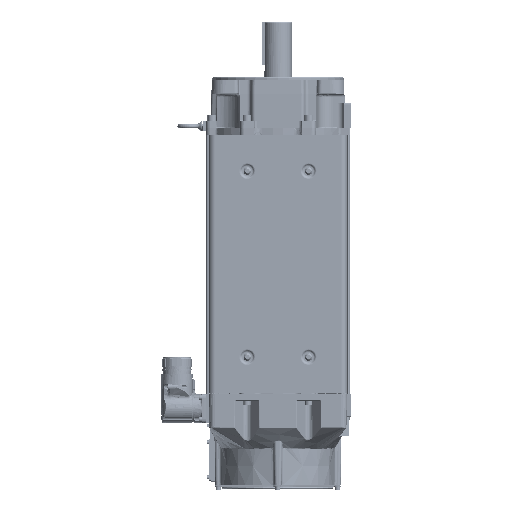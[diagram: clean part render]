
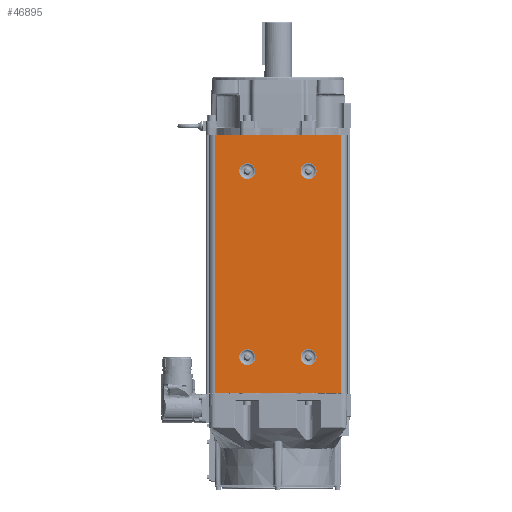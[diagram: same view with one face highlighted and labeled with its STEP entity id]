
A CAD part, left-side view. The second image highlights one B-rep face of the part: STEP entity #46895.
In plain terms, the highlighted planar face has unit normal (-1, 0, 0).
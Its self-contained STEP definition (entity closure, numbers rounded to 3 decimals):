
#45659=DIRECTION('',(0.,0.,-1.));
#45660=VECTOR('',#45659,354.);
#45661=CARTESIAN_POINT('',(0.,-86.25,177.));
#45662=LINE('',#45661,#45660);
#45753=DIRECTION('',(0.,1.,0.));
#45754=VECTOR('',#45753,172.5);
#45755=CARTESIAN_POINT('',(0.,-86.25,177.));
#45756=LINE('',#45755,#45754);
#45765=DIRECTION('',(0.,0.,-1.));
#45766=VECTOR('',#45765,354.);
#45767=CARTESIAN_POINT('',(0.,86.25,177.));
#45768=LINE('',#45767,#45766);
#45769=CARTESIAN_POINT('',(0.,-42.,127.5));
#45770=DIRECTION('',(-1.,0.,0.));
#45771=DIRECTION('',(0.,0.,1.));
#45772=AXIS2_PLACEMENT_3D('',#45769,#45770,#45771);
#45774=CARTESIAN_POINT('',(0.,-42.,127.5));
#45775=DIRECTION('',(-1.,0.,0.));
#45776=DIRECTION('',(0.,0.,-1.));
#45777=AXIS2_PLACEMENT_3D('',#45774,#45775,#45776);
#45779=CARTESIAN_POINT('',(0.,-42.,-127.5));
#45780=DIRECTION('',(-1.,0.,0.));
#45781=DIRECTION('',(0.,0.,1.));
#45782=AXIS2_PLACEMENT_3D('',#45779,#45780,#45781);
#45784=CARTESIAN_POINT('',(0.,-42.,-127.5));
#45785=DIRECTION('',(-1.,0.,0.));
#45786=DIRECTION('',(0.,0.,-1.));
#45787=AXIS2_PLACEMENT_3D('',#45784,#45785,#45786);
#45789=CARTESIAN_POINT('',(0.,42.,127.5));
#45790=DIRECTION('',(-1.,0.,0.));
#45791=DIRECTION('',(0.,0.,1.));
#45792=AXIS2_PLACEMENT_3D('',#45789,#45790,#45791);
#45794=CARTESIAN_POINT('',(0.,42.,127.5));
#45795=DIRECTION('',(-1.,0.,0.));
#45796=DIRECTION('',(0.,0.,-1.));
#45797=AXIS2_PLACEMENT_3D('',#45794,#45795,#45796);
#45799=CARTESIAN_POINT('',(0.,42.,-127.5));
#45800=DIRECTION('',(-1.,0.,0.));
#45801=DIRECTION('',(0.,0.,1.));
#45802=AXIS2_PLACEMENT_3D('',#45799,#45800,#45801);
#45804=CARTESIAN_POINT('',(0.,42.,-127.5));
#45805=DIRECTION('',(-1.,0.,0.));
#45806=DIRECTION('',(0.,0.,-1.));
#45807=AXIS2_PLACEMENT_3D('',#45804,#45805,#45806);
#45809=DIRECTION('',(0.,1.,0.));
#45810=VECTOR('',#45809,172.5);
#45811=CARTESIAN_POINT('',(0.,-86.25,-177.));
#45812=LINE('',#45811,#45810);
#46473=CARTESIAN_POINT('',(0.,-86.25,177.));
#46474=CARTESIAN_POINT('',(0.,86.25,177.));
#46475=VERTEX_POINT('',#46473);
#46476=VERTEX_POINT('',#46474);
#46485=CARTESIAN_POINT('',(0.,-86.25,-177.));
#46486=CARTESIAN_POINT('',(0.,86.25,-177.));
#46487=VERTEX_POINT('',#46485);
#46488=VERTEX_POINT('',#46486);
#46529=CARTESIAN_POINT('',(0.,-42.,138.485));
#46530=CARTESIAN_POINT('',(0.,-42.,116.515));
#46531=VERTEX_POINT('',#46529);
#46532=VERTEX_POINT('',#46530);
#46569=CARTESIAN_POINT('',(0.,-42.,-116.515));
#46570=CARTESIAN_POINT('',(0.,-42.,-138.485));
#46571=VERTEX_POINT('',#46569);
#46572=VERTEX_POINT('',#46570);
#46609=CARTESIAN_POINT('',(0.,42.,138.485));
#46610=CARTESIAN_POINT('',(0.,42.,116.515));
#46611=VERTEX_POINT('',#46609);
#46612=VERTEX_POINT('',#46610);
#46649=CARTESIAN_POINT('',(0.,42.,-116.515));
#46650=CARTESIAN_POINT('',(0.,42.,-138.485));
#46651=VERTEX_POINT('',#46649);
#46652=VERTEX_POINT('',#46650);
#46858=CARTESIAN_POINT('',(0.,86.25,177.));
#46859=DIRECTION('',(-1.,0.,0.));
#46860=DIRECTION('',(0.,-1.,0.));
#46861=AXIS2_PLACEMENT_3D('',#46858,#46859,#46860);
#46862=PLANE('',#46861);
#46863=ORIENTED_EDGE('',*,*,#46849,.F.);
#46864=ORIENTED_EDGE('',*,*,#46732,.T.);
#46866=ORIENTED_EDGE('',*,*,#46865,.T.);
#46868=ORIENTED_EDGE('',*,*,#46867,.F.);
#46869=EDGE_LOOP('',(#46863,#46864,#46866,#46868));
#46870=FACE_OUTER_BOUND('',#46869,.F.);
#46872=ORIENTED_EDGE('',*,*,#46871,.T.);
#46874=ORIENTED_EDGE('',*,*,#46873,.T.);
#46875=EDGE_LOOP('',(#46872,#46874));
#46876=FACE_BOUND('',#46875,.F.);
#46878=ORIENTED_EDGE('',*,*,#46877,.T.);
#46880=ORIENTED_EDGE('',*,*,#46879,.T.);
#46881=EDGE_LOOP('',(#46878,#46880));
#46882=FACE_BOUND('',#46881,.F.);
#46884=ORIENTED_EDGE('',*,*,#46883,.T.);
#46886=ORIENTED_EDGE('',*,*,#46885,.T.);
#46887=EDGE_LOOP('',(#46884,#46886));
#46888=FACE_BOUND('',#46887,.F.);
#46890=ORIENTED_EDGE('',*,*,#46889,.T.);
#46892=ORIENTED_EDGE('',*,*,#46891,.T.);
#46893=EDGE_LOOP('',(#46890,#46892));
#46894=FACE_BOUND('',#46893,.F.);
#46895=ADVANCED_FACE('',(#46870,#46876,#46882,#46888,#46894),#46862,.T.);
#45773=CIRCLE('',#45772,10.985);
#45778=CIRCLE('',#45777,10.985);
#45783=CIRCLE('',#45782,10.985);
#45788=CIRCLE('',#45787,10.985);
#45793=CIRCLE('',#45792,10.985);
#45798=CIRCLE('',#45797,10.985);
#45803=CIRCLE('',#45802,10.985);
#45808=CIRCLE('',#45807,10.985);
#46732=EDGE_CURVE('',#46475,#46487,#45662,.T.);
#46849=EDGE_CURVE('',#46475,#46476,#45756,.T.);
#46865=EDGE_CURVE('',#46487,#46488,#45812,.T.);
#46867=EDGE_CURVE('',#46476,#46488,#45768,.T.);
#46871=EDGE_CURVE('',#46531,#46532,#45773,.T.);
#46873=EDGE_CURVE('',#46532,#46531,#45778,.T.);
#46877=EDGE_CURVE('',#46571,#46572,#45783,.T.);
#46879=EDGE_CURVE('',#46572,#46571,#45788,.T.);
#46883=EDGE_CURVE('',#46611,#46612,#45793,.T.);
#46885=EDGE_CURVE('',#46612,#46611,#45798,.T.);
#46889=EDGE_CURVE('',#46651,#46652,#45803,.T.);
#46891=EDGE_CURVE('',#46652,#46651,#45808,.T.);
